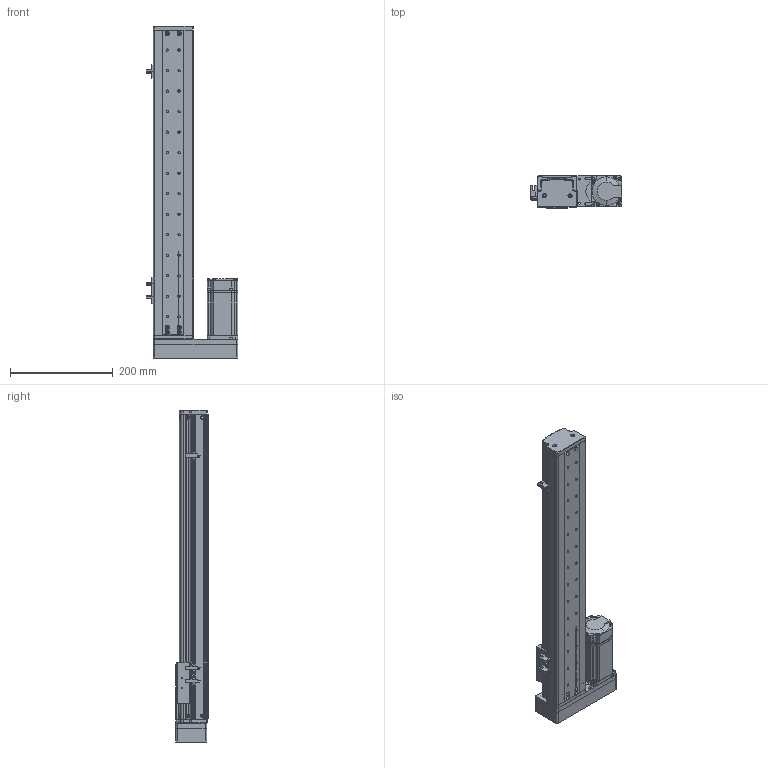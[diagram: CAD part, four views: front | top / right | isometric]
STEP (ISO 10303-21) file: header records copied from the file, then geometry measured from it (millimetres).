
FILE_DESCRIPTION (( 'STEP AP214' ), '1' );
FILE_NAME ('KSD75S-S440-ML-CM.STEP', '2019-10-18T06:57:23', ( '微软用户' ), ( '微软中国' ), 'SwSTEP 2.0', 'SolidWorks 2014', '' );
FILE_SCHEMA (( 'AUTOMOTIVE_DESIGN' ));
Length unit declared in the file: millimetre
Products named in the file (12): MHMD042G1CA_2_03; 75宽模组保护罩左右折; 75宽马达安装板连板左右折丝杆; U倰嫖萇EEㄜSX672; 綴傷啣 ; ヶ傷啣; 75裔啣-440俴最; 75遵耀郪耜啣-440俴最; 75遵賑雄釱; MGW15H賑寢440俴最 ; 440俴最; KSD75S-S440-ML-CM
Assembly tree (14 placements, depth 3):
  KSD75S-S440-ML-CM
    MGW15H賑寢440俴最 
      440俴最
    75遵賑雄釱
    75遵耀郪耜啣-440俴最  x2
    75裔啣-440俴最
    ヶ傷啣
    綴傷啣 
    U倰嫖萇EEㄜSX672  x3
    75宽马达安装板连板左右折丝杆
    75宽模组保护罩左右折
    MHMD042G1CA_2_03
Bounding box: 178.7 x 63 x 647.5 mm (x, y, z)
Volume: 872435.5 mm3; surface area: 548187.4 mm2
Topology: 12 solids, 13 shells, 1451 faces, 4106 edges, 2681 vertices
Faces by surface type: cylinder 691, plane 613, cone 129, bspline 18
Entity records: 46514 total; most frequent: CARTESIAN_POINT 8853, DIRECTION 6946, ORIENTED_EDGE 6492, EDGE_CURVE 3317, AXIS2_PLACEMENT_3D 2553, VERTEX_POINT 2199, VECTOR 1840, LINE 1840
